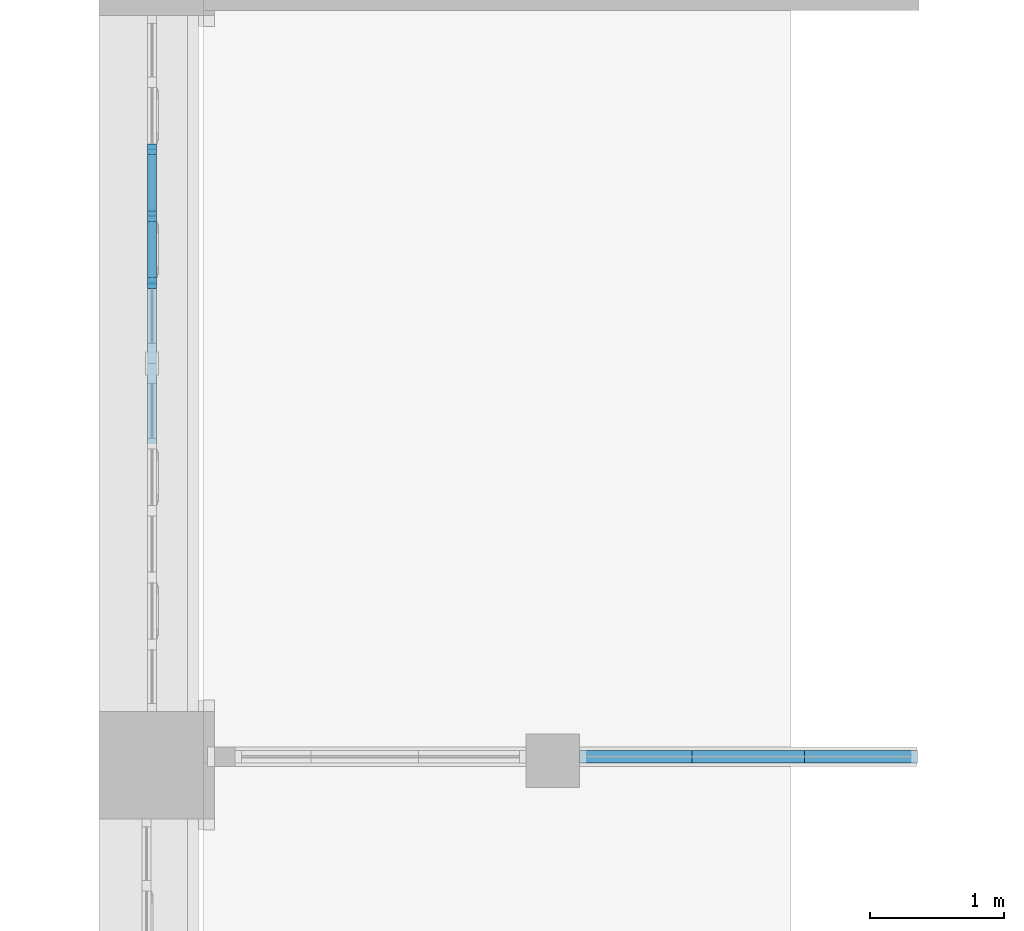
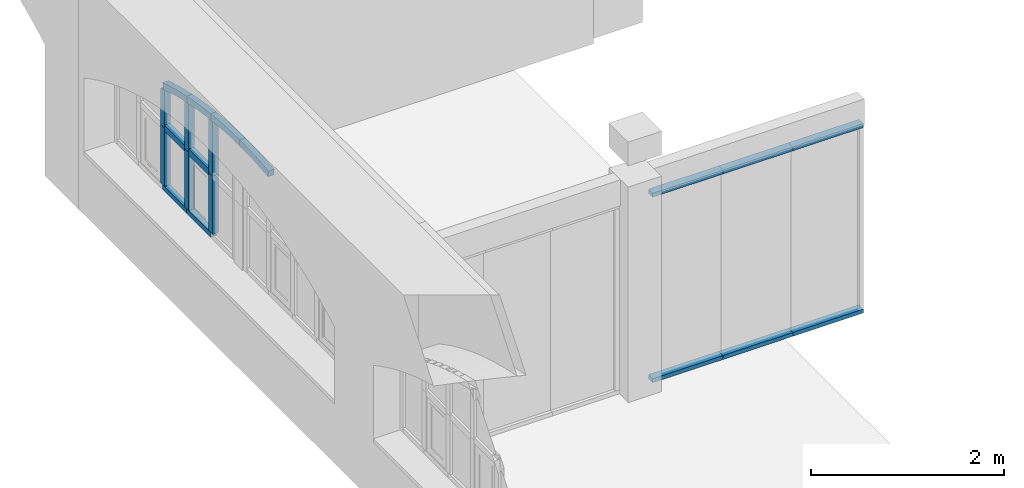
# One storey, part 19 of 32: 20 members, 2 elements without a shape of their own.
"""IFC2X3 building model written with IfcOpenShell, lengths in millimetres."""

from ifc_helpers import new_model, entity, si_unit, converted_unit, derived_unit, direction, frame, frame_2d, origin, place, context, subcontext, project, spatial, polyline, circle_curve, parameter, trimmed, segment, composite_curve, rectangle, outline, extrude, source, transform, mapped, material, type_object, type_shapes, element, aggregate, save


model = new_model("IFC2X3")

# Units and contexts
model_context = context("Model", 3, precision=0.01, world=origin(), true_north=direction((6.123031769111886e-17, 1.0)))
body_context = subcontext(model_context, "Body", "Model", "MODEL_VIEW")
ifc_project = project(units=[si_unit("LENGTHUNIT", "METRE", prefix="MILLI"), si_unit("AREAUNIT", "SQUARE_METRE"), si_unit("VOLUMEUNIT", "CUBIC_METRE"), converted_unit("PLANEANGLEUNIT", "DEGREE", entity("IfcPlaneAngleMeasure", 0.017453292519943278), si_unit("PLANEANGLEUNIT", "RADIAN"), dimensions=[0, 0, 0, 0, 0, 0, 0]), si_unit("MASSUNIT", "GRAM", prefix="KILO"), derived_unit("MASSDENSITYUNIT", [(si_unit("MASSUNIT", "GRAM", prefix="KILO"), 1), (si_unit("LENGTHUNIT", "METRE"), -3)]), derived_unit("IONCONCENTRATIONUNIT", [(si_unit("MASSUNIT", "GRAM", prefix="KILO"), 1), (si_unit("LENGTHUNIT", "METRE"), -3)]), derived_unit("MOMENTOFINERTIAUNIT", [(si_unit("LENGTHUNIT", "METRE"), 4)]), si_unit("TIMEUNIT", "SECOND"), si_unit("FREQUENCYUNIT", "HERTZ"), si_unit("THERMODYNAMICTEMPERATUREUNIT", "DEGREE_CELSIUS"), derived_unit("THERMALTRANSMITTANCEUNIT", [(si_unit("MASSUNIT", "GRAM", prefix="KILO"), 1), (si_unit("THERMODYNAMICTEMPERATUREUNIT", "KELVIN"), -1), (si_unit("TIMEUNIT", "SECOND"), -3)]), derived_unit("THERMALCONDUCTANCEUNIT", [(si_unit("MASSUNIT", "GRAM", prefix="KILO"), 1), (si_unit("THERMODYNAMICTEMPERATUREUNIT", "KELVIN"), -1), (si_unit("TIMEUNIT", "SECOND"), -3), (si_unit("LENGTHUNIT", "METRE"), 1)]), derived_unit("VOLUMETRICFLOWRATEUNIT", [(si_unit("LENGTHUNIT", "METRE", prefix="DECI"), 3), (si_unit("TIMEUNIT", "SECOND"), -1)]), derived_unit("MASSFLOWRATEUNIT", [(si_unit("MASSUNIT", "GRAM", prefix="KILO"), 1), (si_unit("TIMEUNIT", "SECOND"), -1)]), derived_unit("ROTATIONALFREQUENCYUNIT", [(si_unit("TIMEUNIT", "SECOND"), -1)]), si_unit("ELECTRICCURRENTUNIT", "AMPERE"), si_unit("ELECTRICVOLTAGEUNIT", "VOLT"), si_unit("POWERUNIT", "WATT"), si_unit("FORCEUNIT", "NEWTON", prefix="KILO"), si_unit("ILLUMINANCEUNIT", "LUX"), si_unit("LUMINOUSFLUXUNIT", "LUMEN"), si_unit("LUMINOUSINTENSITYUNIT", "CANDELA"), si_unit("ENERGYUNIT", "JOULE"), derived_unit("USERDEFINED", [(si_unit("MASSUNIT", "GRAM", prefix="KILO"), -1), (si_unit("LENGTHUNIT", "METRE"), -2), (si_unit("TIMEUNIT", "SECOND"), 3), (si_unit("LUMINOUSFLUXUNIT", "LUMEN"), 1)]), derived_unit("USERDEFINED", [(si_unit("MASSUNIT", "GRAM", prefix="KILO"), 1), (si_unit("TIMEUNIT", "SECOND"), -3), (si_unit("LENGTHUNIT", "METRE"), 3), (si_unit("ELECTRICCURRENTUNIT", "AMPERE"), -2)]), derived_unit("SOUNDPOWERUNIT", [(si_unit("MASSUNIT", "GRAM", prefix="KILO"), 1), (si_unit("TIMEUNIT", "SECOND"), -3), (si_unit("LENGTHUNIT", "METRE"), 2)]), derived_unit("SOUNDPRESSUREUNIT", [(si_unit("MASSUNIT", "GRAM", prefix="KILO"), 1), (si_unit("LENGTHUNIT", "METRE"), -1), (si_unit("TIMEUNIT", "SECOND"), -2)]), derived_unit("LINEARVELOCITYUNIT", [(si_unit("LENGTHUNIT", "METRE"), 1), (si_unit("TIMEUNIT", "SECOND"), -1)]), si_unit("PRESSUREUNIT", "PASCAL"), derived_unit("USERDEFINED", [(si_unit("MASSUNIT", "GRAM", prefix="KILO"), 1), (si_unit("LENGTHUNIT", "METRE"), -2), (si_unit("TIMEUNIT", "SECOND"), -2)]), derived_unit("LINEARFORCEUNIT", [(si_unit("MASSUNIT", "GRAM", prefix="KILO"), 1), (si_unit("TIMEUNIT", "SECOND"), -2)]), derived_unit("PLANARFORCEUNIT", [(si_unit("MASSUNIT", "GRAM", prefix="KILO"), 1), (si_unit("LENGTHUNIT", "METRE"), -1), (si_unit("TIMEUNIT", "SECOND"), -2)]), derived_unit("SPECIFICHEATCAPACITYUNIT", [(si_unit("THERMODYNAMICTEMPERATUREUNIT", "KELVIN"), -1), (si_unit("LENGTHUNIT", "METRE"), 2), (si_unit("TIMEUNIT", "SECOND"), -2)]), derived_unit("HEATFLUXDENSITYUNIT", [(si_unit("MASSUNIT", "GRAM", prefix="KILO"), 1), (si_unit("TIMEUNIT", "SECOND"), -3)]), derived_unit("HEATINGVALUEUNIT", [(si_unit("LENGTHUNIT", "METRE"), 2), (si_unit("TIMEUNIT", "SECOND"), -2)]), derived_unit("VAPORPERMEABILITYUNIT", [(si_unit("LENGTHUNIT", "METRE"), -1), (si_unit("TIMEUNIT", "SECOND"), 1)]), derived_unit("DYNAMICVISCOSITYUNIT", [(si_unit("MASSUNIT", "GRAM", prefix="KILO"), 1), (si_unit("TIMEUNIT", "SECOND"), -1), (si_unit("LENGTHUNIT", "METRE"), -1)]), derived_unit("THERMALEXPANSIONCOEFFICIENTUNIT", [(si_unit("THERMODYNAMICTEMPERATUREUNIT", "KELVIN"), -1)]), derived_unit("MODULUSOFELASTICITYUNIT", [(si_unit("MASSUNIT", "GRAM", prefix="KILO"), 1), (si_unit("LENGTHUNIT", "METRE"), -1), (si_unit("TIMEUNIT", "SECOND"), -2)]), derived_unit("ISOTHERMALMOISTURECAPACITYUNIT", [(si_unit("MASSUNIT", "GRAM", prefix="KILO"), -1), (si_unit("LENGTHUNIT", "METRE"), 3)]), derived_unit("MOISTUREDIFFUSIVITYUNIT", [(si_unit("TIMEUNIT", "SECOND"), -1), (si_unit("LENGTHUNIT", "METRE"), 2)]), derived_unit("MASSPERLENGTHUNIT", [(si_unit("MASSUNIT", "GRAM", prefix="KILO"), 1), (si_unit("LENGTHUNIT", "METRE"), -1)]), derived_unit("THERMALRESISTANCEUNIT", [(si_unit("MASSUNIT", "GRAM", prefix="KILO"), -1), (si_unit("TIMEUNIT", "SECOND"), 3), (si_unit("THERMODYNAMICTEMPERATUREUNIT", "KELVIN"), 1)]), derived_unit("ACCELERATIONUNIT", [(si_unit("LENGTHUNIT", "METRE"), 1), (si_unit("TIMEUNIT", "SECOND"), -2)]), derived_unit("ANGULARVELOCITYUNIT", [(si_unit("TIMEUNIT", "SECOND"), -1), (si_unit("PLANEANGLEUNIT", "RADIAN"), 1)]), derived_unit("LINEARSTIFFNESSUNIT", [(si_unit("MASSUNIT", "GRAM", prefix="KILO"), 1), (si_unit("TIMEUNIT", "SECOND"), -2)]), derived_unit("WARPINGCONSTANTUNIT", [(si_unit("LENGTHUNIT", "METRE"), 6)]), derived_unit("LINEARMOMENTUNIT", [(si_unit("MASSUNIT", "GRAM", prefix="KILO"), 1), (si_unit("LENGTHUNIT", "METRE"), 1), (si_unit("TIMEUNIT", "SECOND"), -2)]), derived_unit("TORQUEUNIT", [(si_unit("MASSUNIT", "GRAM", prefix="KILO"), 1), (si_unit("LENGTHUNIT", "METRE"), 2), (si_unit("TIMEUNIT", "SECOND"), -2)])], contexts=[model_context])

# Site, building, storey
site_placement = place(None, origin())
site = spatial("IfcSite", under=ifc_project, at=site_placement, Name="Default", CompositionType="ELEMENT")
building_placement = place(site_placement, origin())
building = spatial("IfcBuilding", under=site, at=building_placement, Name="Eesti Rahvusraamatukogu hoone renoveerimise projekteerimistööd", CompositionType="ELEMENT")
storey_placement = place(building_placement, frame((0.0, 0.0, 4950.000000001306)))
storey = spatial("IfcBuildingStorey", under=building, at=storey_placement, Name="2. korrus", CompositionType="ELEMENT", Elevation=4950.000000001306)

# Curtain wall, members
curtain_wall_type_1 = type_object("IfcCurtainWallType", Name="Curtain Wall:VLS Klaasvahesein profiilita 38db", PredefinedType="NOTDEFINED")
curtain_wall_1_placement = place(storey_placement, frame((0.0, 0.0, -4950.000000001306)))
curtain_wall_1 = element("IfcCurtainWall", 1, at=curtain_wall_1_placement, inside=storey, type_object=curtain_wall_type_1, Name="Curtain Wall:VLS Klaasvahesein profiilita 38db", ObjectType="Curtain Wall:VLS Klaasvahesein profiilita 38db")
ifc_material_1 = material(Name="Aluminum")
member_type_1 = type_object("IfcMemberType", Name="Rectangular Mullion:50mm x 92mm", PredefinedType="MULLION", material=ifc_material_1)
shared_shape_1 = source(origin(), body_context, "Body", "SweptSolid", [
    extrude(rectangle(XDim=50.0, YDim=92.0, at=frame_2d((0.0, 3.552713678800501e-15), x_axis=(1.0, 0.0))), frame((-25.0, 0.0, -845.2500001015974), z_axis=(0.0, 0.0, 1.0), x_axis=(-1.0, 0.0, 0.0)), (0.0, 0.0, 1.0), 845.2500001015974),
])
type_shapes(member_type_1, [shared_shape_1])
member_1_placement = place(curtain_wall_1_placement, frame((-30664.749999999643, 42420.0, 7350.0), z_axis=(1.0, 0.0, 0.0), x_axis=(0.0, 0.0, 1.0)))
member_1 = element("IfcMember", 2, at=member_1_placement, type_object=member_type_1, material=ifc_material_1, Name="Rectangular Mullion:50mm x 92mm", ObjectType="Rectangular Mullion:50mm x 92mm", context=body_context, shape_type="MappedRepresentation", body=[
    mapped(shared_shape_1, transform((0.0, 0.0, 0.0), scale=1.0)),
])
member_type_2 = type_object("IfcMemberType", Name="Rectangular Mullion:50mm x 92mm", PredefinedType="MULLION", material=ifc_material_1)
shared_shape_2 = source(origin(), body_context, "Body", "SweptSolid", [
    extrude(rectangle(XDim=50.0, YDim=92.0, at=frame_2d((0.0, 3.552713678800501e-15), x_axis=(1.0, 0.0))), frame((-25.0, 0.0, -840.0840950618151), z_axis=(0.0, 0.0, 1.0), x_axis=(-1.0, 0.0, 0.0)), (0.0, 0.0, 1.0), 840.0840950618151),
])
type_shapes(member_type_2, [shared_shape_2])
member_2_placement = place(curtain_wall_1_placement, frame((-32349.999999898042, 42420.0, 7350.0), z_axis=(1.0, 0.0, 0.0), x_axis=(0.0, 0.0, 1.0)))
member_2 = element("IfcMember", 3, at=member_2_placement, type_object=member_type_2, material=ifc_material_1, Name="Rectangular Mullion:50mm x 92mm", ObjectType="Rectangular Mullion:50mm x 92mm", context=body_context, shape_type="MappedRepresentation", body=[
    mapped(shared_shape_2, transform((0.0, 0.0, 0.0), scale=1.0)),
])
member_type_3 = type_object("IfcMemberType", Name="Rectangular Mullion:50mm x 92mm", PredefinedType="MULLION", material=ifc_material_1)
shared_shape_3 = source(origin(), body_context, "Body", "SweptSolid", [
    extrude(rectangle(XDim=50.0, YDim=92.0, at=frame_2d((0.0, 3.552713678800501e-15), x_axis=(1.0, 0.0))), frame((-25.0, 0.0, -839.9999997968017), z_axis=(0.0, 0.0, 1.0), x_axis=(-1.0, 0.0, 0.0)), (0.0, 0.0, 1.0), 839.9999997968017),
])
type_shapes(member_type_3, [shared_shape_3])
member_3_placement = place(curtain_wall_1_placement, frame((-31510.00000010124, 42420.0, 7350.0), z_axis=(1.0, 0.0, 0.0), x_axis=(0.0, 0.0, 1.0)))
member_3 = element("IfcMember", 4, at=member_3_placement, type_object=member_type_3, material=ifc_material_1, Name="Rectangular Mullion:50mm x 92mm", ObjectType="Rectangular Mullion:50mm x 92mm", context=body_context, shape_type="MappedRepresentation", body=[
    mapped(shared_shape_3, transform((0.0, 0.0, 0.0), scale=1.0)),
])
member_type_4 = type_object("IfcMemberType", Name="Rectangular Mullion:50mm x 92mm", PredefinedType="MULLION", material=ifc_material_1)
shared_shape_4 = source(origin(), body_context, "Body", "SweptSolid", [
    extrude(rectangle(XDim=50.0, YDim=92.0, at=frame_2d((0.0, 3.552713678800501e-15), x_axis=(1.0, 0.0))), frame((-25.0, 0.0, -840.0840950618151), z_axis=(0.0, 0.0, 1.0), x_axis=(-1.0, 0.0, 0.0)), (0.0, 0.0, 1.0), 840.0840950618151),
])
type_shapes(member_type_4, [shared_shape_4])
member_4_placement = place(curtain_wall_1_placement, frame((-33190.0, 42420.0, 4950.0), z_axis=(-1.0, 0.0, 0.0), x_axis=(0.0, 0.0, -1.0)))
member_4 = element("IfcMember", 5, at=member_4_placement, type_object=member_type_4, material=ifc_material_1, Name="Rectangular Mullion:50mm x 92mm", ObjectType="Rectangular Mullion:50mm x 92mm", context=body_context, shape_type="MappedRepresentation", body=[
    mapped(shared_shape_4, transform((0.0, 0.0, 0.0), scale=1.0)),
])
member_type_5 = type_object("IfcMemberType", Name="Rectangular Mullion:50mm x 92mm", PredefinedType="MULLION", material=ifc_material_1)
shared_shape_5 = source(origin(), body_context, "Body", "SweptSolid", [
    extrude(rectangle(XDim=50.0, YDim=92.0, at=frame_2d((0.0, 3.552713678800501e-15), x_axis=(1.0, 0.0))), frame((-25.0, 0.0, -839.9999997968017), z_axis=(0.0, 0.0, 1.0), x_axis=(-1.0, 0.0, 0.0)), (0.0, 0.0, 1.0), 839.9999997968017),
])
type_shapes(member_type_5, [shared_shape_5])
member_5_placement = place(curtain_wall_1_placement, frame((-32349.999999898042, 42420.0, 4950.0), z_axis=(-1.0, 0.0, 0.0), x_axis=(0.0, 0.0, -1.0)))
member_5 = element("IfcMember", 6, at=member_5_placement, type_object=member_type_5, material=ifc_material_1, Name="Rectangular Mullion:50mm x 92mm", ObjectType="Rectangular Mullion:50mm x 92mm", context=body_context, shape_type="MappedRepresentation", body=[
    mapped(shared_shape_5, transform((0.0, 0.0, 0.0), scale=1.0)),
])
member_type_6 = type_object("IfcMemberType", Name="Rectangular Mullion:50mm x 92mm", PredefinedType="MULLION", material=ifc_material_1)
shared_shape_6 = source(origin(), body_context, "Body", "SweptSolid", [
    extrude(rectangle(XDim=50.0, YDim=92.0, at=frame_2d((0.0, 3.552713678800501e-15), x_axis=(1.0, 0.0))), frame((-25.0, 0.0, -845.2500001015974), z_axis=(0.0, 0.0, 1.0), x_axis=(-1.0, 0.0, 0.0)), (0.0, 0.0, 1.0), 845.2500001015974),
])
type_shapes(member_type_6, [shared_shape_6])
member_6_placement = place(curtain_wall_1_placement, frame((-31510.00000010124, 42420.0, 4950.0), z_axis=(-1.0, 0.0, 0.0), x_axis=(0.0, 0.0, -1.0)))
member_6 = element("IfcMember", 7, at=member_6_placement, type_object=member_type_6, material=ifc_material_1, Name="Rectangular Mullion:50mm x 92mm", ObjectType="Rectangular Mullion:50mm x 92mm", context=body_context, shape_type="MappedRepresentation", body=[
    mapped(shared_shape_6, transform((0.0, 0.0, 0.0), scale=1.0)),
])
aggregate(curtain_wall_1, [member_1, member_2, member_3, member_4, member_5, member_6])

curtain_wall_type_2 = type_object("IfcCurtainWallType", Name="Curtain Wall:Ak-04", PredefinedType="NOTDEFINED")
curtain_wall_2_placement = place(storey_placement, frame((0.0, 0.0, -4950.000000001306)))
curtain_wall_2 = element("IfcCurtainWall", 8, at=curtain_wall_2_placement, inside=storey, type_object=curtain_wall_type_2, Name="Curtain Wall:Ak-04", ObjectType="Curtain Wall:Ak-04")
ifc_material_2 = material(Name="LUMION_dark steel window frames")
member_type_7 = type_object("IfcMemberType", Name="Rectangular Mullion:NEW 80x70mm", PredefinedType="MULLION", material=ifc_material_2)
shared_shape_7 = source(origin(), body_context, "Body", "SweptSolid", [
    extrude(rectangle(XDim=80.0, YDim=70.0, at=frame_2d((0.0, -3.552713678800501e-15), x_axis=(1.0, 0.0))), frame((0.0, 0.0, -420.0), z_axis=(0.0, 0.0, 1.0), x_axis=(-1.0, 0.0, 0.0)), (0.0, 0.0, 1.0), 419.999999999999),
])
type_shapes(member_type_7, [shared_shape_7])
member_7_placement = place(curtain_wall_2_placement, frame((-36383.999999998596, 45999.000000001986, 6550.000000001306), z_axis=(0.0, -1.0, 0.0), x_axis=(0.0, 0.0, 1.0)))
member_7 = element("IfcMember", 9, at=member_7_placement, type_object=member_type_7, material=ifc_material_2, Name="Rectangular Mullion:NEW 80x70mm", ObjectType="Rectangular Mullion:NEW 80x70mm", context=body_context, shape_type="MappedRepresentation", body=[
    mapped(shared_shape_7, transform((0.0, 0.0, 0.0), scale=1.0)),
])
member_8_placement = place(curtain_wall_2_placement, frame((-36383.999999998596, 46499.00000000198, 6550.000000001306), z_axis=(0.0, -1.0, 0.0), x_axis=(0.0, 0.0, 1.0)))
member_8 = element("IfcMember", 10, at=member_8_placement, type_object=member_type_7, material=ifc_material_2, Name="Rectangular Mullion:NEW 80x70mm", ObjectType="Rectangular Mullion:NEW 80x70mm", context=body_context, shape_type="MappedRepresentation", body=[
    mapped(shared_shape_7, transform((0.0, 0.0, 0.0), scale=1.0)),
])
member_type_8 = type_object("IfcMemberType", Name="Rectangular Mullion:NEW 60x70mm", PredefinedType="MULLION", material=ifc_material_2)
shared_shape_8 = source(origin(), body_context, "Body", "SweptSolid", [
    extrude(rectangle(XDim=60.0, YDim=70.0, at=frame_2d((0.0, 3.552713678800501e-15), x_axis=(1.0, 0.0))), frame((-30.0, 0.0, -500.0), z_axis=(0.0, 0.0, 1.0), x_axis=(-1.0, 0.0, 0.0)), (0.0, 0.0, 1.0), 499.999999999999),
])
type_shapes(member_type_8, [shared_shape_8])
member_9_placement = place(curtain_wall_2_placement, frame((-36383.999999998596, 46459.00000000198, 5750.000000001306), z_axis=(0.0, 1.0, 0.0), x_axis=(0.0, 0.0, -1.0)))
member_9 = element("IfcMember", 11, at=member_9_placement, type_object=member_type_8, material=ifc_material_2, Name="Rectangular Mullion:NEW 60x70mm", ObjectType="Rectangular Mullion:NEW 60x70mm", context=body_context, shape_type="MappedRepresentation", body=[
    mapped(shared_shape_8, transform((0.0, 0.0, 0.0), scale=1.0)),
])
member_10_placement = place(curtain_wall_2_placement, frame((-36383.999999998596, 46959.00000000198, 5750.000000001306), z_axis=(0.0, 1.0, 0.0), x_axis=(0.0, 0.0, -1.0)))
member_10 = element("IfcMember", 12, at=member_10_placement, type_object=member_type_8, material=ifc_material_2, Name="Rectangular Mullion:NEW 60x70mm", ObjectType="Rectangular Mullion:NEW 60x70mm", context=body_context, shape_type="MappedRepresentation", body=[
    mapped(shared_shape_8, transform((0.0, 0.0, 0.0), scale=1.0)),
])
member_type_9 = type_object("IfcMemberType", Name="Rectangular Mullion:NEW 80x70mm", PredefinedType="MULLION", material=ifc_material_2)
shared_shape_9 = source(origin(), body_context, "Body", "SweptSolid", [
    extrude(rectangle(XDim=80.0, YDim=70.0, at=frame_2d((0.0, -3.552713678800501e-15), x_axis=(1.0, 0.0))), frame((0.0, 0.0, -740.0), z_axis=(0.0, 0.0, 1.0), x_axis=(-1.0, 0.0, 0.0)), (0.0, 0.0, 1.0), 740.0),
])
type_shapes(member_type_9, [shared_shape_9])
member_11_placement = place(curtain_wall_2_placement, frame((-36383.999999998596, 45959.000000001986, 5810.000000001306), z_axis=(0.0, 0.0, -1.0), x_axis=(0.0, -1.0, 0.0)))
member_11 = element("IfcMember", 13, at=member_11_placement, type_object=member_type_9, material=ifc_material_2, Name="Rectangular Mullion:NEW 80x70mm", ObjectType="Rectangular Mullion:NEW 80x70mm", context=body_context, shape_type="MappedRepresentation", body=[
    mapped(shared_shape_9, transform((0.0, 0.0, 0.0), scale=1.0)),
])
member_12_placement = place(curtain_wall_2_placement, frame((-36383.999999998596, 46459.00000000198, 5810.000000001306), z_axis=(0.0, 0.0, -1.0), x_axis=(0.0, -1.0, 0.0)))
member_12 = element("IfcMember", 14, at=member_12_placement, type_object=member_type_9, material=ifc_material_2, Name="Rectangular Mullion:NEW 80x70mm", ObjectType="Rectangular Mullion:NEW 80x70mm", context=body_context, shape_type="MappedRepresentation", body=[
    mapped(shared_shape_9, transform((0.0, 0.0, 0.0), scale=1.0)),
])
member_13_placement = place(curtain_wall_2_placement, frame((-36383.999999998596, 46959.00000000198, 5810.000000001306), z_axis=(0.0, 0.0, -1.0), x_axis=(0.0, -1.0, 0.0)))
member_13 = element("IfcMember", 15, at=member_13_placement, type_object=member_type_9, material=ifc_material_2, Name="Rectangular Mullion:NEW 80x70mm", ObjectType="Rectangular Mullion:NEW 80x70mm", context=body_context, shape_type="MappedRepresentation", body=[
    mapped(shared_shape_9, transform((0.0, 0.0, 0.0), scale=1.0)),
])
member_type_10 = type_object("IfcMemberType", Name="Rectangular Mullion:NEW 80x70mm", PredefinedType="MULLION", material=ifc_material_2)
shared_shape_10 = source(origin(), body_context, "Body", "SweptSolid", [
    extrude(outline(composite_curve([segment(polyline([(-411.6963002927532, -38.21553912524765), (278.6344972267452, -38.21553912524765)]), True, "CONTINUOUS"), segment(trimmed(circle_curve(frame_2d((-4991.472419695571, -598.2155391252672), x_axis=(1.0, 0.0)), 5299.776119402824), [parameter(6.065472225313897)], [parameter(6.403451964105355)], True, "PARAMETER"), True, "CONTINUOUS"), segment(trimmed(circle_curve(frame_2d((-4991.472419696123, -598.2155391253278), x_axis=(0.9937612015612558, 0.11152880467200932)), 5299.776119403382), [parameter(0.0)], [parameter(0.532503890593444)], True, "PARAMETER"), True, "CONTINUOUS"), segment(polyline([(269.51863863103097, 41.78446087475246), (-411.6963002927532, 41.78446087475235)]), True, "CONTINUOUS"), segment(polyline([(-411.6963002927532, 41.78446087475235), (-411.6963002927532, -38.21553912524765)]), True, "CONTINUOUS")], self_intersect=False)), frame((1.7844608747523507, -35.0, -411.6963002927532), z_axis=(0.0, 1.0, 0.0), x_axis=(0.0, 0.0, -1.0)), (0.0, 0.0, 1.0), 69.99999999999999),
])
type_shapes(member_type_10, [shared_shape_10])
member_14_placement = place(curtain_wall_2_placement, frame((-36383.999999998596, 45959.000000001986, 6550.000000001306), z_axis=(0.0, 0.0, -1.0), x_axis=(0.0, -1.0, 0.0)))
member_14 = element("IfcMember", 16, at=member_14_placement, type_object=member_type_10, material=ifc_material_2, Name="Rectangular Mullion:NEW 80x70mm", ObjectType="Rectangular Mullion:NEW 80x70mm", context=body_context, shape_type="MappedRepresentation", body=[
    mapped(shared_shape_10, transform((0.0, 0.0, 0.0), scale=1.0)),
])
member_type_11 = type_object("IfcMemberType", Name="Rectangular Mullion:NEW 80x70mm", PredefinedType="MULLION", material=ifc_material_2)
shared_shape_11 = source(origin(), body_context, "Body", "SweptSolid", [
    extrude(outline(composite_curve([segment(polyline([(-363.376788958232, -36.72848839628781), (249.53684896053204, -36.72848839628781)]), True, "CONTINUOUS"), segment(trimmed(circle_curve(frame_2d((-4943.152908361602, -1096.7284883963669), x_axis=(0.9937612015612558, 0.11152880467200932)), 5299.776119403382), [parameter(5.134001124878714)], [parameter(5.394992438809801)], True, "PARAMETER"), True, "CONTINUOUS"), segment(trimmed(circle_curve(frame_2d((-4943.152908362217, -1096.7284883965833), x_axis=(0.9788729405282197, 0.20446947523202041)), 5299.776119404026), [parameter(0.0)], [parameter(0.6231507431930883)], True, "PARAMETER"), True, "CONTINUOUS"), segment(polyline([(232.5622031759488, 43.27151160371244), (-363.376788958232, 43.27151160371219)]), True, "CONTINUOUS"), segment(polyline([(-363.376788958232, 43.27151160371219), (-363.376788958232, -36.72848839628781)]), True, "CONTINUOUS")], self_intersect=False)), frame((3.2715116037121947, -35.0, -363.376788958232), z_axis=(0.0, 1.0, 0.0), x_axis=(0.0, 0.0, -1.0)), (0.0, 0.0, 1.0), 69.99999999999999),
])
type_shapes(member_type_11, [shared_shape_11])
member_15_placement = place(curtain_wall_2_placement, frame((-36383.999999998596, 46459.00000000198, 6550.000000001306), z_axis=(0.0, 0.0, -1.0), x_axis=(0.0, -1.0, 0.0)))
member_15 = element("IfcMember", 17, at=member_15_placement, type_object=member_type_11, material=ifc_material_2, Name="Rectangular Mullion:NEW 80x70mm", ObjectType="Rectangular Mullion:NEW 80x70mm", context=body_context, shape_type="MappedRepresentation", body=[
    mapped(shared_shape_11, transform((0.0, 0.0, 0.0), scale=1.0)),
])
member_type_12 = type_object("IfcMemberType", Name="Rectangular Mullion:NEW 80x70mm", PredefinedType="MULLION", material=ifc_material_2)
shared_shape_12 = source(origin(), body_context, "Body", "SweptSolid", [
    extrude(outline(composite_curve([segment(polyline([(-285.0515721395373, -35.24143766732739), (200.1527542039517, -35.24143766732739)]), True, "CONTINUOUS"), segment(trimmed(circle_curve(frame_2d((-4864.827691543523, -1595.241437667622), x_axis=(0.9788729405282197, 0.20446947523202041)), 5299.776119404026), [parameter(5.320243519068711)], [parameter(5.503672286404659)], True, "PARAMETER"), True, "CONTINUOUS"), segment(trimmed(circle_curve(frame_2d((-4864.827691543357, -1595.2414376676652), x_axis=(0.9547498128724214, 0.2974101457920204)), 5299.776119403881), [parameter(0.0)], [parameter(0.7237926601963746)], True, "PARAMETER"), True, "CONTINUOUS"), segment(polyline([(174.8178233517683, 44.758562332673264), (-285.0515721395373, 44.75856233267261)]), True, "CONTINUOUS"), segment(polyline([(-285.0515721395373, 44.75856233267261), (-285.0515721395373, -35.24143766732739)]), True, "CONTINUOUS")], self_intersect=False)), frame((4.758562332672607, -35.0, -285.0515721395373), z_axis=(0.0, 1.0, 0.0), x_axis=(0.0, 0.0, -1.0)), (0.0, 0.0, 1.0), 70.00000000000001),
])
type_shapes(member_type_12, [shared_shape_12])
member_16_placement = place(curtain_wall_2_placement, frame((-36383.999999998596, 46959.00000000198, 6550.000000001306), z_axis=(0.0, 0.0, -1.0), x_axis=(0.0, -1.0, 0.0)))
member_16 = element("IfcMember", 18, at=member_16_placement, type_object=member_type_12, material=ifc_material_2, Name="Rectangular Mullion:NEW 80x70mm", ObjectType="Rectangular Mullion:NEW 80x70mm", context=body_context, shape_type="MappedRepresentation", body=[
    mapped(shared_shape_12, transform((0.0, 0.0, 0.0), scale=1.0)),
])
member_type_13 = type_object("IfcMemberType", Name="Rectangular Mullion:NEW 80x70mm", PredefinedType="MULLION", material=ifc_material_2)
shared_shape_13 = source(origin(), body_context, "Body", "SweptSolid", [
    extrude(outline(composite_curve([segment(polyline([(-51.82710825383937, -251.02635265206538), (28.172891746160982, -251.0263526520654)]), True, "CONTINUOUS"), segment(trimmed(circle_curve(frame_2d((5327.949011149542, -251.0263526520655), x_axis=(-0.995570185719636, 0.09402130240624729)), 5299.776119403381), [parameter(3.5622212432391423e-13)], [parameter(5.394992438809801)], True, "PARAMETER"), False, "CONTINUOUS"), segment(polyline([(51.649915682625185, 247.26550055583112), (-27.99569917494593, 254.78720474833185)]), True, "CONTINUOUS"), segment(trimmed(circle_curve(frame_2d((5327.949011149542, -251.0263526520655), x_axis=(-0.995570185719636, 0.09402130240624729)), 5379.776119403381), [parameter(3.5622212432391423e-13)], [parameter(5.394992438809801)], True, "PARAMETER"), True, "CONTINUOUS")], self_intersect=False)), frame((-51.827108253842, -35.0, -251.0263526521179), z_axis=(0.0, 1.0, 0.0), x_axis=(-0.9955701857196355, 0.0, 0.09402130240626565)), (0.0, 0.0, 1.0), 69.99999999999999),
])
type_shapes(member_type_13, [shared_shape_13])
member_17_placement = place(curtain_wall_2_placement, frame((-36383.999999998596, 45959.000000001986, 7316.436661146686), z_axis=(0.0, -0.9937612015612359, 0.11152880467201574), x_axis=(0.0, 0.11152880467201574, 0.9937612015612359)))
member_17 = element("IfcMember", 19, at=member_17_placement, type_object=member_type_13, material=ifc_material_2, Name="Rectangular Mullion:NEW 80x70mm", ObjectType="Rectangular Mullion:NEW 80x70mm", context=body_context, shape_type="MappedRepresentation", body=[
    mapped(shared_shape_13, transform((0.0, 0.0, 0.0), scale=1.0)),
])
member_type_14 = type_object("IfcMemberType", Name="Rectangular Mullion:NEW 80x70mm", PredefinedType="MULLION", material=ifc_material_2)
shared_shape_14 = source(origin(), body_context, "Body", "SweptSolid", [
    extrude(outline(composite_curve([segment(polyline([(-52.308041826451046, -256.0677643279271), (27.6919581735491, -256.0677643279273)]), True, "CONTINUOUS"), segment(trimmed(circle_curve(frame_2d((5327.468077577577, -256.0677643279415), x_axis=(-0.995390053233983, 0.09590955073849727)), 5299.776119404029), [parameter(3.5622212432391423e-13)], [parameter(5.503672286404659)], True, "PARAMETER"), False, "CONTINUOUS"), segment(polyline([(52.12364395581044, 252.23138229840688), (-27.50756030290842, 259.90414635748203)]), True, "CONTINUOUS"), segment(trimmed(circle_curve(frame_2d((5327.468077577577, -256.0677643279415), x_axis=(-0.995390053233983, 0.09590955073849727)), 5379.776119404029), [parameter(3.5622212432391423e-13)], [parameter(5.503672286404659)], True, "PARAMETER"), True, "CONTINUOUS")], self_intersect=False)), frame((-52.30804182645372, -35.0, -256.0677643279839), z_axis=(0.0, 1.0, 0.0), x_axis=(-0.9953900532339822, 0.0, 0.09590955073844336)), (0.0, 0.0, 1.0), 69.99999999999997),
])
type_shapes(member_type_14, [shared_shape_14])
member_18_placement = place(curtain_wall_2_placement, frame((-36383.999999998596, 46459.000000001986, 7236.341149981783), z_axis=(0.0, -0.9788729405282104, 0.20446947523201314), x_axis=(0.0, 0.20446947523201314, 0.9788729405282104)))
member_18 = element("IfcMember", 20, at=member_18_placement, type_object=member_type_14, material=ifc_material_2, Name="Rectangular Mullion:NEW 80x70mm", ObjectType="Rectangular Mullion:NEW 80x70mm", context=body_context, shape_type="MappedRepresentation", body=[
    mapped(shared_shape_14, transform((0.0, 0.0, 0.0), scale=1.0)),
])
member_type_15 = type_object("IfcMemberType", Name="Rectangular Mullion:NEW 80x70mm", PredefinedType="MULLION", material=ifc_material_2)
shared_shape_15 = source(origin(), body_context, "Body", "SweptSolid", [
    extrude(outline(composite_curve([segment(polyline([(-56.65689345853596, -297.7694239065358), (23.343106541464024, -297.7694239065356)]), True, "CONTINUOUS"), segment(trimmed(circle_curve(frame_2d((5323.119225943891, -297.7694239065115), x_axis=(-0.9937612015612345, 0.11152880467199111)), 5299.776119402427), [parameter(3.5622212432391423e-13)], [parameter(6.4034519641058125)], True, "PARAMETER"), False, "CONTINUOUS"), segment(polyline([(56.40734152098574, 293.3082717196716), (-23.093554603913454, 302.230576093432)]), True, "CONTINUOUS"), segment(trimmed(circle_curve(frame_2d((5323.119225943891, -297.7694239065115), x_axis=(-0.9937612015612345, 0.11152880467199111)), 5379.776119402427), [parameter(3.5622212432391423e-13)], [parameter(6.4034519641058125)], True, "PARAMETER"), True, "CONTINUOUS")], self_intersect=False)), frame((-56.6568934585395, -35.0, -297.7694239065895), z_axis=(0.0, 1.0, 0.0), x_axis=(-0.9937612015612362, 0.0, 0.11152880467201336)), (0.0, 0.0, 1.0), 70.00000000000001),
])
type_shapes(member_type_15, [shared_shape_15])
member_19_placement = place(curtain_wall_2_placement, frame((-36383.999999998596, 44759.000000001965, 7316.4366611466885), z_axis=(0.0, -0.9937612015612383, -0.11152880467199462), x_axis=(0.0, -0.11152880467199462, 0.9937612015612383)))
member_19 = element("IfcMember", 21, at=member_19_placement, type_object=member_type_15, material=ifc_material_2, Name="Rectangular Mullion:NEW 80x70mm", ObjectType="Rectangular Mullion:NEW 80x70mm", context=body_context, shape_type="MappedRepresentation", body=[
    mapped(shared_shape_15, transform((0.0, 0.0, 0.0), scale=1.0)),
])
member_type_16 = type_object("IfcMemberType", Name="Rectangular Mullion:NEW 80x70mm", PredefinedType="MULLION", material=ifc_material_2)
shared_shape_16 = source(origin(), body_context, "Body", "SweptSolid", [
    extrude(outline(composite_curve([segment(polyline([(-56.65689345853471, -297.7694239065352), (23.343106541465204, -297.7694239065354)]), True, "CONTINUOUS"), segment(trimmed(circle_curve(frame_2d((5323.11922594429, -297.7694239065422), x_axis=(-0.9937612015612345, 0.11152880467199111)), 5299.776119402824), [parameter(3.5622212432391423e-13)], [parameter(6.403451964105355)], True, "PARAMETER"), False, "CONTINUOUS"), segment(polyline([(56.40734152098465, 293.3082717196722), (-23.093554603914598, 302.2305760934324)]), True, "CONTINUOUS"), segment(trimmed(circle_curve(frame_2d((5323.11922594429, -297.7694239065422), x_axis=(-0.9937612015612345, 0.11152880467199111)), 5379.776119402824), [parameter(3.5622212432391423e-13)], [parameter(6.403451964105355)], True, "PARAMETER"), True, "CONTINUOUS")], self_intersect=False)), frame((-56.65689345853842, -35.0, -297.7694239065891), z_axis=(0.0, 1.0, 0.0), x_axis=(-0.993761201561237, 0.0, 0.11152880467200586)), (0.0, 0.0, 1.0), 70.0),
])
type_shapes(member_type_16, [shared_shape_16])
member_20_placement = place(curtain_wall_2_placement, frame((-36383.999999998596, 45359.00000000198, 7350.000000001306), z_axis=(0.0, -1.0, 0.0), x_axis=(0.0, 0.0, 1.0)))
member_20 = element("IfcMember", 22, at=member_20_placement, type_object=member_type_16, material=ifc_material_2, Name="Rectangular Mullion:NEW 80x70mm", ObjectType="Rectangular Mullion:NEW 80x70mm", context=body_context, shape_type="MappedRepresentation", body=[
    mapped(shared_shape_16, transform((0.0, 0.0, 0.0), scale=1.0)),
])
aggregate(curtain_wall_2, [member_14, member_11, member_15, member_12, member_16, member_13, member_9, member_10, member_17, member_18, member_7, member_8, member_19, member_20])

save(model, "model.ifc")
